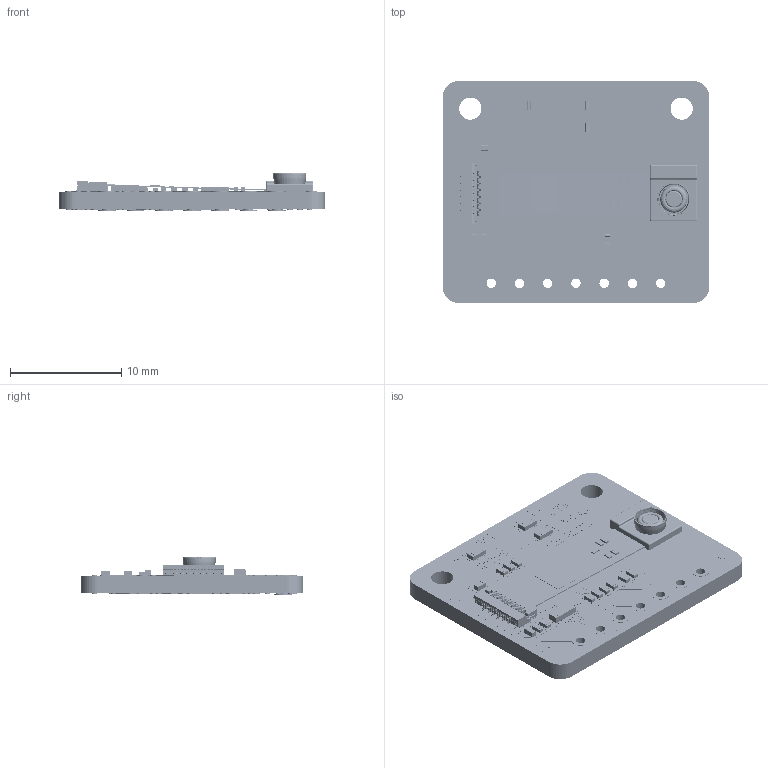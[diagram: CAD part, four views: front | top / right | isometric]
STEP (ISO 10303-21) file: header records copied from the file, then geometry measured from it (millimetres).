
FILE_DESCRIPTION(/* description */ (''),/* implementation_level */ '2;1');
FILE_NAME(/* name */ '1',/* time_stamp */ '2025-10-30T09:45:02+08:00',/* author */ (''),/* organization */ (''),/* preprocessor_version */ 'ST-DEVELOPER v19.2',/* originating_system */ 'Rhino 8.0',/* authorisation */ '');
FILE_SCHEMA (('CONFIG_CONTROL_DESIGN'));
Products named in the file (5): Document; R_0402_1005Metric; C_0402_1005Metric; R_0603_1608Metric; Diodes_UDFN-10_1.0x2.5mm_P0.5mm
Bounding box: 24 x 20 x 3.35 mm (x, y, z)
Volume: 798.2 mm3; surface area: 2193.5 mm2
Topology: 460 solids, 460 shells, 8602 faces, 22726 edges, 15103 vertices
Faces by surface type: plane 6470, cylinder 2094, bspline 38
Entity records: 244566 total; most frequent: CARTESIAN_POINT 71733, ORIENTED_EDGE 43812, EDGE_CURVE 21906, B_SPLINE_CURVE_WITH_KNOTS 17409, DIRECTION 16290, VERTEX_POINT 14571, AXIS2_PLACEMENT_3D 12260, EDGE_LOOP 8913
